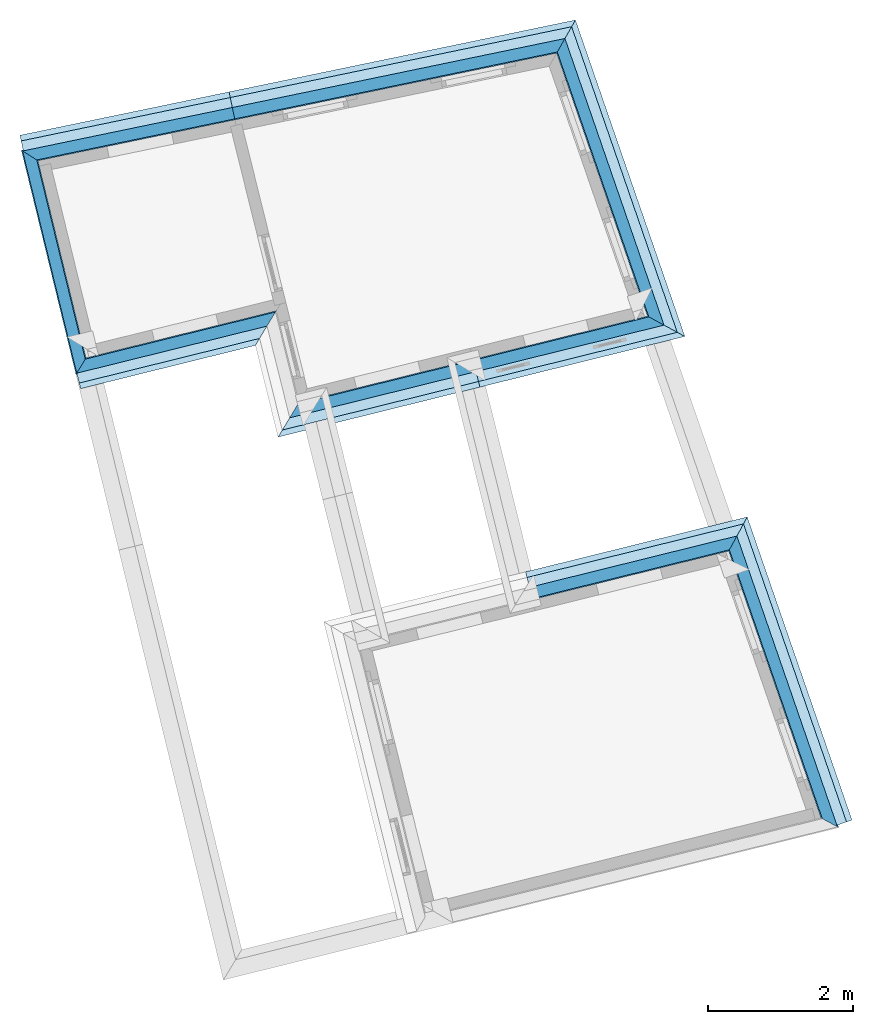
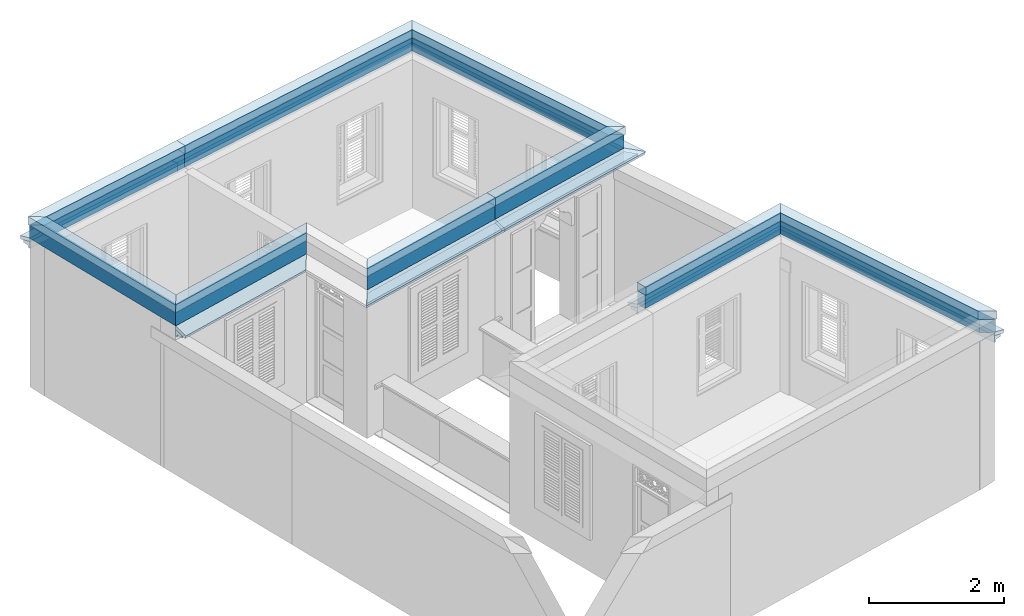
# One storey, part 14 of 15: 34 roofs.
"""IFC4 building model written with IfcOpenShell, lengths in metres."""

import ifcopenshell
import ifcopenshell.guid

model = None  # the IFC model being written
_history = None  # IfcOwnerHistory: only IFC2X3 demands one
_inside = {}  # id of a spatial element -> (the spatial element, [elements in it])
_under = {}  # id of a project, library or spatial element -> (it, [spatial elements below it])
_declared = {}  # id of a project -> (the project, [libraries it declares])
_typed = {}  # id of a type object -> (the type object, [elements of that type])
_made_of = {}  # id of a material, layer set ... -> (it, [elements and type objects made of it])


def new_model(schema):
    """Start an empty IFC model of exactly this schema.

    Asked for "IFC4X3", IfcOpenShell would pick the latest addendum, in which some entities
    have other attributes; the version numbers below select the first issue.
    IFC2X3 requires an IfcOwnerHistory on every rooted entity: one is made here for all.
    """
    global model, _history
    if schema == "IFC4X3":
        model = ifcopenshell.file(schema_version=(4, 3, 0, 0))
    else:
        model = ifcopenshell.file(schema=schema)
    _inside.clear()
    _under.clear()
    _declared.clear()
    _typed.clear()
    _made_of.clear()
    _history = None
    if model.schema == "IFC2X3":
        org = make("IfcOrganization", Name="unknown")
        user = make(
            "IfcPersonAndOrganization",
            ThePerson=make("IfcPerson", FamilyName="unknown"),
            TheOrganization=org,
        )
        app = make(
            "IfcApplication",
            ApplicationDeveloper=org,
            Version="unknown",
            ApplicationFullName="unknown",
            ApplicationIdentifier="unknown",
        )
        _history = make(
            "IfcOwnerHistory",
            OwningUser=user,
            OwningApplication=app,
            ChangeAction="ADDED",
            CreationDate=0,
        )
    return model


def make(cls, **values):
    """One entity of the class cls with the attributes given. An attribute that is None is left unset."""
    return model.create_entity(
        cls, **{name: value for name, value in values.items() if value is not None}
    )


def rooted(cls, **values):
    """An entity with a GlobalId (a new one), such as an element, a storey or a relation."""
    return make(cls, GlobalId=ifcopenshell.guid.new(), OwnerHistory=_history, **values)


def si_unit(unit_type, name, prefix=None):
    """IfcSIUnit, for example si_unit("LENGTHUNIT", "METRE", prefix="MILLI")."""
    return make("IfcSIUnit", UnitType=unit_type, Prefix=prefix, Name=name)


def assignment(units):
    """IfcUnitAssignment: the units of a project."""
    return None if units is None else make("IfcUnitAssignment", Units=units)


def point(xyz):
    """IfcCartesianPoint."""
    return None if xyz is None else make("IfcCartesianPoint", Coordinates=xyz)


def direction(xyz):
    """IfcDirection."""
    return None if xyz is None else make("IfcDirection", DirectionRatios=xyz)


def frame(location, z_axis=None, x_axis=None):
    """IfcAxis2Placement3D, a coordinate frame: its origin and axes. An axis left out is left unset."""
    return make(
        "IfcAxis2Placement3D",
        Location=point(location),
        Axis=direction(z_axis),
        RefDirection=direction(x_axis),
    )


def origin_with_axes():
    """The frame at (0, 0, 0) with the z axis (0, 0, 1) and the x axis (1, 0, 0) written out."""
    return frame((0.0, 0.0, 0.0), z_axis=(0.0, 0.0, 1.0), x_axis=(1.0, 0.0, 0.0))


def place(relative_to, where):
    """IfcLocalPlacement: puts the frame where relative to a parent placement (None: the world)."""
    return make(
        "IfcLocalPlacement", PlacementRelTo=relative_to, RelativePlacement=where
    )


def context(
    kind, dimensions, precision=None, world=None, true_north=None, identifier=None
):
    """IfcGeometricRepresentationContext, for example the 3D "Model" context."""
    return make(
        "IfcGeometricRepresentationContext",
        ContextIdentifier=identifier,
        ContextType=kind,
        CoordinateSpaceDimension=dimensions,
        Precision=precision,
        WorldCoordinateSystem=world,
        TrueNorth=true_north,
    )


def subcontext(parent, identifier, kind, view, scale=None):
    """IfcGeometricRepresentationSubContext, for example "Body" below "Model"."""
    return make(
        "IfcGeometricRepresentationSubContext",
        ContextIdentifier=identifier,
        ContextType=kind,
        ParentContext=parent,
        TargetScale=scale,
        TargetView=view,
    )


def project(units=None, contexts=None):
    """IfcProject with its units and contexts."""
    return rooted(
        "IfcProject",
        Name="project",
        RepresentationContexts=contexts,
        UnitsInContext=assignment(units),
    )


def spatial(cls, under=None, at=None, **own):
    """A site, building, storey or space (cls), placed at a placement, below another one or the project."""
    s = rooted(cls, ObjectPlacement=at, **own)
    if under is not None:
        _under.setdefault(under.id(), (under, []))[1].append(s)
    return s


def polyline(points):
    """IfcPolyline through the points."""
    return make("IfcPolyline", Points=[point(p) for p in points])


def outline(outer, holes=None, kind="AREA"):
    """IfcArbitraryClosedProfileDef: a profile drawn as a closed curve; with holes, ...WithVoids."""
    if holes is None:
        return make("IfcArbitraryClosedProfileDef", ProfileType=kind, OuterCurve=outer)
    return make(
        "IfcArbitraryProfileDefWithVoids",
        ProfileType=kind,
        OuterCurve=outer,
        InnerCurves=holes,
    )


def extrude(swept, where, along, depth):
    """IfcExtrudedAreaSolid: the profile swept, set in the frame where, extruded along a direction by depth."""
    return make(
        "IfcExtrudedAreaSolid",
        SweptArea=swept,
        Position=where,
        ExtrudedDirection=direction(along),
        Depth=depth,
    )


def clip(a, b, op="DIFFERENCE"):
    """IfcBooleanClippingResult: the solid a cut by the half space b."""
    return make(
        "IfcBooleanClippingResult", Operator=op, FirstOperand=a, SecondOperand=b
    )


def halfspace(plane, agree):
    """IfcHalfSpaceSolid: all space on one side of the plane z = 0 of the frame plane."""
    return make(
        "IfcHalfSpaceSolid",
        BaseSurface=make("IfcPlane", Position=plane),
        AgreementFlag=agree,
    )


def shape(context_of_items, identifier, shape_type, items):
    """IfcShapeRepresentation: the items that make up one representation, for example the "Body"."""
    return make(
        "IfcShapeRepresentation",
        ContextOfItems=context_of_items,
        RepresentationIdentifier=identifier,
        RepresentationType=shape_type,
        Items=items,
    )


def material_profile(
    of_material, cross_section, Name=None, Category=None, Priority=None
):
    """IfcMaterialProfile: a cross section and its material."""
    return make(
        "IfcMaterialProfile",
        Name=Name,
        Material=of_material,
        Profile=cross_section,
        Priority=Priority,
        Category=Category,
    )


def profile_set(profiles, Name=None, composite=None):
    """IfcMaterialProfileSet."""
    return make(
        "IfcMaterialProfileSet",
        Name=Name,
        MaterialProfiles=profiles,
        CompositeProfile=composite,
    )


def profile_usage(for_profile_set, cardinal=None, extent=None):
    """IfcMaterialProfileSetUsage: how a profile set lies along its element."""
    return make(
        "IfcMaterialProfileSetUsage",
        ForProfileSet=for_profile_set,
        CardinalPoint=cardinal,
        ReferenceExtent=extent,
    )


def made_of(thing, what):
    """Note that an element or type object is made of a material, layer set ...; save() writes the relation."""
    if what is not None:
        _made_of.setdefault(what.id(), (what, []))[1].append(thing)
    return thing


def type_object(cls, material=None, **own):
    """A type object (cls), such as IfcWallType, which elements share."""
    return made_of(rooted(cls, **own), material)


def element(
    cls,
    number,
    at=None,
    inside=None,
    cuts=None,
    type_object=None,
    material=None,
    context=None,
    identifier="Body",
    shape_type=None,
    held_by="IfcProductDefinitionShape",
    body=None,
    shapes=None,
    **own,
):
    """One element of the class cls, such as IfcWall. Its Tag is "e" and its number.

    at: its placement. inside: the storey or other place that contains it. cuts: it is an
    opening in that element (IfcRelVoidsElement). A single representation is given by context,
    identifier, shape_type and body (its items); several are given by shapes. held_by: the class
    of the entity that holds the representations. save() writes the other relations.
    """
    e = rooted(cls, Tag="e%d" % number, ObjectPlacement=at, **own)
    if body is not None:
        shapes = [shape(context, identifier, shape_type, body)]
    if shapes is not None:
        e.Representation = make(held_by, Representations=shapes)
    if inside is not None:
        _inside.setdefault(inside.id(), (inside, []))[1].append(e)
    if cuts is not None:
        rooted(
            "IfcRelVoidsElement", RelatingBuildingElement=cuts, RelatedOpeningElement=e
        )
    if type_object is not None:
        _typed.setdefault(type_object.id(), (type_object, []))[1].append(e)
    return made_of(e, material)


def aggregate(whole, parts):
    """IfcRelAggregates: a whole, such as a stair, and the parts it consists of."""
    return rooted("IfcRelAggregates", RelatingObject=whole, RelatedObjects=parts)


def save(model, path):
    """Write the relations noted so far, then the file.

    IfcRelAggregates (storeys below a building ...), IfcRelContainedInSpatialStructure (elements
    in a storey), IfcRelDefinesByType, IfcRelAssociatesMaterial and IfcRelDeclares: one each for
    every whole, place, type object, material and project.
    """
    for whole, parts in _under.values():
        aggregate(whole, parts)
    for where, things in _inside.values():
        rooted(
            "IfcRelContainedInSpatialStructure",
            RelatedElements=things,
            RelatingStructure=where,
        )
    for kind, things in _typed.values():
        rooted("IfcRelDefinesByType", RelatedObjects=things, RelatingType=kind)
    for what, things in _made_of.values():
        rooted("IfcRelAssociatesMaterial", RelatedObjects=things, RelatingMaterial=what)
    for by, libraries in _declared.values():
        rooted("IfcRelDeclares", RelatingContext=by, RelatedDefinitions=libraries)
    model.write(path)


model = new_model("IFC4")

# Units and contexts
model_context = context("Model", 3, world=origin_with_axes())
body_context = subcontext(model_context, "Body", "Model", "MODEL_VIEW")
ifc_project = project(units=[si_unit("PLANEANGLEUNIT", "RADIAN"), si_unit("MASSUNIT", "GRAM", prefix="KILO"), si_unit("FORCEUNIT", "NEWTON", prefix="KILO"), si_unit("LENGTHUNIT", "METRE"), si_unit("AREAUNIT", "SQUARE_METRE"), si_unit("VOLUMEUNIT", "CUBIC_METRE")], contexts=[model_context, model_context])

# Site, building, storey
site_placement = place(None, origin_with_axes())
site = spatial("IfcSite", under=ifc_project, at=site_placement, Name="Site plot-5", CompositionType="ELEMENT")
building_placement = place(None, origin_with_axes())
building = spatial("IfcBuilding", under=site, at=building_placement, Name="Building plot-5", CompositionType="ELEMENT")
storey_placement = place(None, frame((0.0, 0.0, 3.45), z_axis=(0.0, 0.0, 1.0), x_axis=(1.0, 0.0, 0.0)))
storey = spatial("IfcBuildingStorey", under=building, at=storey_placement, Name="plot-5 1", CompositionType="ELEMENT", Elevation=3.45)

# Roofs
ifc_material_profile_1 = material_profile(None, outline(polyline([(0.25, 0.0), (0.25, 0.245), (0.09, 0.245), (0.09, 0.0), (0.25, 0.0)])))
ifc_profile_set_1 = profile_set([ifc_material_profile_1])
ifc_profile_usage_1 = profile_usage(ifc_profile_set_1)
roof_type_1 = type_object("IfcRoofType", Name="roofline_0", PredefinedType="FREEFORM", material=ifc_profile_set_1)
roof_1_placement = place(storey_placement, frame((20.3453675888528, 24.3198891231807, 2.7), z_axis=(0.970711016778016, 0.240250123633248, 0.0), x_axis=(-0.240250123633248, 0.970711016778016, 0.0)))
element("IfcRoof", 1, at=roof_1_placement, inside=storey, type_object=roof_type_1, material=ifc_profile_usage_1, Name="roofline_0", context=body_context, shape_type="Clipping", body=[
    clip(clip(extrude(outline(polyline([(0.25, 0.0), (0.25, 0.245), (0.09, 0.245), (0.09, 0.0), (0.25, 0.0)])), origin_with_axes(), (0.0, 0.0, 1.0), 4.71405591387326), halfspace(frame((0.0, 0.0, 3.71405591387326), z_axis=(0.674509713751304, 0.0, -0.738265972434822), x_axis=(0.0, 1.0, 0.0)), True)), halfspace(frame((0.0, 0.0, 1.0), z_axis=(-1.39349996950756e-15, 0.0, -1.0), x_axis=(0.0, 1.0, 0.0)), False)),
])
ifc_profile_usage_2 = profile_usage(ifc_profile_set_1)
roof_2_placement = place(storey_placement, frame((23.6239339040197, 26.1573166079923, 2.7), z_axis=(0.326708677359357, -0.945125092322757, 0.0), x_axis=(0.945125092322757, 0.326708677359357, 0.0)))
element("IfcRoof", 2, at=roof_2_placement, inside=storey, type_object=roof_type_1, material=ifc_profile_usage_2, Name="roofline_0", context=body_context, shape_type="Clipping", body=[
    clip(clip(extrude(outline(polyline([(0.25, 0.0), (0.25, 0.245), (0.09, 0.245), (0.09, 0.0), (0.25, 0.0)])), origin_with_axes(), (0.0, 0.0, 1.0), 5.73477604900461), halfspace(frame((0.0, 0.0, 4.73477604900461), z_axis=(0.738265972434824, 0.0, -0.674509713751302), x_axis=(0.0, 1.0, 0.0)), True)), halfspace(frame((0.0, 0.0, 1.0), z_axis=(-0.674509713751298, 0.0, -0.738265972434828), x_axis=(0.0, 1.0, 0.0)), False)),
])
ifc_material_profile_2 = material_profile(None, outline(polyline([(0.265, 0.245), (0.265, 0.395), (0.075, 0.395), (0.075, 0.245), (0.265, 0.245)])))
ifc_profile_set_2 = profile_set([ifc_material_profile_2])
ifc_profile_usage_3 = profile_usage(ifc_profile_set_2)
roof_type_2 = type_object("IfcRoofType", Name="roofline_1", PredefinedType="FREEFORM", material=ifc_profile_set_2)
roof_3_placement = place(storey_placement, frame((20.3453675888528, 24.3198891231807, 2.7), z_axis=(0.970711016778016, 0.240250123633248, 0.0), x_axis=(-0.240250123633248, 0.970711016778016, 0.0)))
element("IfcRoof", 3, at=roof_3_placement, inside=storey, type_object=roof_type_2, material=ifc_profile_usage_3, Name="roofline_1", context=body_context, shape_type="Clipping", body=[
    clip(clip(extrude(outline(polyline([(0.265, 0.245), (0.265, 0.395), (0.075, 0.395), (0.075, 0.245), (0.265, 0.245)])), origin_with_axes(), (0.0, 0.0, 1.0), 4.71405591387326), halfspace(frame((0.0, 0.0, 3.71405591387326), z_axis=(0.674509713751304, 0.0, -0.738265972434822), x_axis=(0.0, 1.0, 0.0)), True)), halfspace(frame((0.0, 0.0, 1.0), z_axis=(-1.39349996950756e-15, 0.0, -1.0), x_axis=(0.0, 1.0, 0.0)), False)),
])
ifc_profile_usage_4 = profile_usage(ifc_profile_set_2)
roof_4_placement = place(storey_placement, frame((23.6239339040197, 26.1573166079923, 2.7), z_axis=(0.326708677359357, -0.945125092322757, 0.0), x_axis=(0.945125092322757, 0.326708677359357, 0.0)))
element("IfcRoof", 4, at=roof_4_placement, inside=storey, type_object=roof_type_2, material=ifc_profile_usage_4, Name="roofline_1", context=body_context, shape_type="Clipping", body=[
    clip(clip(extrude(outline(polyline([(0.265, 0.245), (0.265, 0.395), (0.075, 0.395), (0.075, 0.245), (0.265, 0.245)])), origin_with_axes(), (0.0, 0.0, 1.0), 5.73477604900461), halfspace(frame((0.0, 0.0, 4.73477604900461), z_axis=(0.738265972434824, 0.0, -0.674509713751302), x_axis=(0.0, 1.0, 0.0)), True)), halfspace(frame((0.0, 0.0, 1.0), z_axis=(-0.674509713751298, 0.0, -0.738265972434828), x_axis=(0.0, 1.0, 0.0)), False)),
])
ifc_material_profile_3 = material_profile(None, outline(polyline([(0.25, 0.0), (0.25, 0.245), (0.09, 0.245), (0.09, 0.0), (0.25, 0.0)])))
ifc_profile_set_3 = profile_set([ifc_material_profile_3])
ifc_profile_usage_5 = profile_usage(ifc_profile_set_3)
roof_type_3 = type_object("IfcRoofType", Name="roofline_0", PredefinedType="FREEFORM", material=ifc_profile_set_3)
roof_5_placement = place(storey_placement, frame((21.2538979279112, 33.0135179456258, 2.7), z_axis=(0.326708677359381, -0.945125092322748, 0.0), x_axis=(0.945125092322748, 0.326708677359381, 0.0)))
element("IfcRoof", 5, at=roof_5_placement, inside=storey, type_object=roof_type_3, material=ifc_profile_usage_5, Name="roofline_0", context=body_context, shape_type="Clipping", body=[
    clip(clip(extrude(outline(polyline([(0.25, 0.0), (0.25, 0.245), (0.09, 0.245), (0.09, 0.0), (0.25, 0.0)])), origin_with_axes(), (0.0, 0.0, 1.0), 5.68091742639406), halfspace(frame((0.0, 0.0, 4.68091742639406), z_axis=(0.738265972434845, 0.0, -0.674509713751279), x_axis=(0.0, 1.0, 0.0)), True)), halfspace(frame((0.0, 0.0, 1.0), z_axis=(-0.66033156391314, 0.0, -0.750974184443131), x_axis=(0.0, 1.0, 0.0)), False)),
])
ifc_profile_usage_6 = profile_usage(ifc_profile_set_3)
roof_6_placement = place(storey_placement, frame((16.2382831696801, 30.9601588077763, 2.7), z_axis=(0.979153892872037, 0.203119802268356, 0.0), x_axis=(-0.203119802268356, 0.979153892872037, 0.0)))
element("IfcRoof", 6, at=roof_6_placement, inside=storey, type_object=roof_type_3, material=ifc_profile_usage_6, Name="roofline_0", context=body_context, shape_type="Clipping", body=[
    clip(clip(extrude(outline(polyline([(0.25, 0.0), (0.25, 0.245), (0.09, 0.245), (0.09, 0.0), (0.25, 0.0)])), origin_with_axes(), (0.0, 0.0, 1.0), 6.45606106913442), halfspace(frame((0.0, 0.0, 5.45606106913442), z_axis=(0.660331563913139, 0.0, -0.750974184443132), x_axis=(0.0, 1.0, 0.0)), True)), halfspace(frame((0.0, 0.0, 1.0), z_axis=(-1.83758917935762e-15, 0.0, -1.0), x_axis=(0.0, 1.0, 0.0)), False)),
])
ifc_profile_usage_7 = profile_usage(ifc_profile_set_3)
roof_7_placement = place(storey_placement, frame((13.6049365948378, 30.4138863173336, 2.7), z_axis=(0.979153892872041, 0.203119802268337, 0.0), x_axis=(-0.203119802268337, 0.979153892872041, 0.0)))
element("IfcRoof", 7, at=roof_7_placement, inside=storey, type_object=roof_type_3, material=ifc_profile_usage_7, Name="roofline_0", context=body_context, shape_type="Clipping", body=[
    clip(clip(extrude(outline(polyline([(0.25, 0.0), (0.25, 0.245), (0.09, 0.245), (0.09, 0.0), (0.25, 0.0)])), origin_with_axes(), (0.0, 0.0, 1.0), 4.68941031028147), halfspace(frame((0.0, 0.0, 3.68941031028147), z_axis=(-2.04893359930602e-14, 0.0, -1.0), x_axis=(0.0, 1.0, 0.0)), True)), halfspace(frame((0.0, 0.0, 1.0), z_axis=(-0.719139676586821, 0.0, -0.694865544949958), x_axis=(0.0, 1.0, 0.0)), False)),
])
ifc_profile_usage_8 = profile_usage(ifc_profile_set_3)
roof_8_placement = place(storey_placement, frame((15.4449624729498, 27.0819338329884, 2.7), z_axis=(-0.236608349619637, 0.971605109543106, 0.0), x_axis=(-0.971605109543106, -0.236608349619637, 0.0)))
element("IfcRoof", 8, at=roof_8_placement, inside=storey, type_object=roof_type_3, material=ifc_profile_usage_8, Name="roofline_0", context=body_context, shape_type="Clipping", body=[
    clip(clip(extrude(outline(polyline([(0.25, 0.0), (0.25, 0.245), (0.09, 0.245), (0.09, 0.0), (0.25, 0.0)])), origin_with_axes(), (0.0, 0.0, 1.0), 4.63838379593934), halfspace(frame((0.0, 0.0, 3.63838379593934), z_axis=(0.719139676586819, 0.0, -0.69486554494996), x_axis=(0.0, 1.0, 0.0)), True)), halfspace(frame((0.0, 0.0, 1.0), z_axis=(-0.708431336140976, 0.0, -0.705779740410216), x_axis=(0.0, 1.0, 0.0)), False)),
])
ifc_profile_usage_9 = profile_usage(ifc_profile_set_3)
roof_9_placement = place(storey_placement, frame((18.7974166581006, 28.9418287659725, 2.7), z_axis=(-0.970711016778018, -0.240250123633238, 0.0), x_axis=(0.240250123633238, -0.970711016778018, 0.0)))
element("IfcRoof", 9, at=roof_9_placement, inside=storey, type_object=roof_type_3, material=ifc_profile_usage_9, Name="roofline_0", context=body_context, shape_type="Clipping", body=[
    clip(clip(extrude(outline(polyline([(0.25, 0.0), (0.25, 0.245), (0.09, 0.245), (0.09, 0.0), (0.25, 0.0)])), origin_with_axes(), (0.0, 0.0, 1.0), 4.69735428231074), halfspace(frame((0.0, 0.0, 3.69735428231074), z_axis=(0.708431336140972, 0.0, -0.70577974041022), x_axis=(0.0, 1.0, 0.0)), True)), halfspace(frame((0.0, 0.0, 1.0), z_axis=(0.707106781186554, 0.0, -0.707106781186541), x_axis=(0.0, 1.0, 0.0)), False)),
])
ifc_profile_usage_10 = profile_usage(ifc_profile_set_3)
roof_10_placement = place(storey_placement, frame((21.4317786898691, 28.2549912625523, 2.7), z_axis=(-0.970711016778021, -0.240250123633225, 0.0), x_axis=(0.240250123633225, -0.970711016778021, 0.0)))
element("IfcRoof", 10, at=roof_10_placement, inside=storey, type_object=roof_type_3, material=ifc_profile_usage_10, Name="roofline_0", context=body_context, shape_type="Clipping", body=[
    clip(clip(extrude(outline(polyline([(0.25, 0.0), (0.25, 0.245), (0.09, 0.245), (0.09, 0.0), (0.25, 0.0)])), origin_with_axes(), (0.0, 0.0, 1.0), 4.39219145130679), halfspace(frame((0.0, 0.0, 3.39219145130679), z_axis=(0.707106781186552, 0.0, -0.707106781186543), x_axis=(0.0, 1.0, 0.0)), True)), halfspace(frame((0.0, 0.0, 1.0), z_axis=(1.04899068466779e-15, 0.0, -1.0), x_axis=(0.0, 1.0, 0.0)), False)),
])
ifc_profile_usage_11 = profile_usage(ifc_profile_set_3)
roof_11_placement = place(storey_placement, frame((23.7539052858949, 28.8297155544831, 2.7), z_axis=(-0.970711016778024, -0.240250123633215, 0.0), x_axis=(0.240250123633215, -0.970711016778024, 0.0)))
element("IfcRoof", 11, at=roof_11_placement, inside=storey, type_object=roof_type_3, material=ifc_profile_usage_11, Name="roofline_0", context=body_context, shape_type="Clipping", body=[
    clip(clip(extrude(outline(polyline([(0.25, 0.0), (0.25, 0.245), (0.09, 0.245), (0.09, 0.0), (0.25, 0.0)])), origin_with_axes(), (0.0, 0.0, 1.0), 4.39219145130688), halfspace(frame((0.0, 0.0, 3.39219145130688), z_axis=(-8.94301653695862e-15, 0.0, -1.0), x_axis=(0.0, 1.0, 0.0)), True)), halfspace(frame((0.0, 0.0, 1.0), z_axis=(-0.738265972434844, 0.0, -0.67450971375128), x_axis=(0.0, 1.0, 0.0)), False)),
])
ifc_material_profile_4 = material_profile(None, outline(polyline([(0.265, 0.245), (0.265, 0.395), (0.075, 0.395), (0.075, 0.245), (0.265, 0.245)])))
ifc_profile_set_4 = profile_set([ifc_material_profile_4])
ifc_profile_usage_12 = profile_usage(ifc_profile_set_4)
roof_type_4 = type_object("IfcRoofType", Name="roofline_1", PredefinedType="FREEFORM", material=ifc_profile_set_4)
roof_12_placement = place(storey_placement, frame((21.2538979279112, 33.0135179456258, 2.7), z_axis=(0.326708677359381, -0.945125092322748, 0.0), x_axis=(0.945125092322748, 0.326708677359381, 0.0)))
element("IfcRoof", 12, at=roof_12_placement, inside=storey, type_object=roof_type_4, material=ifc_profile_usage_12, Name="roofline_1", context=body_context, shape_type="Clipping", body=[
    clip(clip(extrude(outline(polyline([(0.265, 0.245), (0.265, 0.395), (0.075, 0.395), (0.075, 0.245), (0.265, 0.245)])), origin_with_axes(), (0.0, 0.0, 1.0), 5.68091742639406), halfspace(frame((0.0, 0.0, 4.68091742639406), z_axis=(0.738265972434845, 0.0, -0.674509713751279), x_axis=(0.0, 1.0, 0.0)), True)), halfspace(frame((0.0, 0.0, 1.0), z_axis=(-0.66033156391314, 0.0, -0.750974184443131), x_axis=(0.0, 1.0, 0.0)), False)),
])
ifc_profile_usage_13 = profile_usage(ifc_profile_set_4)
roof_13_placement = place(storey_placement, frame((16.2382831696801, 30.9601588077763, 2.7), z_axis=(0.979153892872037, 0.203119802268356, 0.0), x_axis=(-0.203119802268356, 0.979153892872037, 0.0)))
element("IfcRoof", 13, at=roof_13_placement, inside=storey, type_object=roof_type_4, material=ifc_profile_usage_13, Name="roofline_1", context=body_context, shape_type="Clipping", body=[
    clip(clip(extrude(outline(polyline([(0.265, 0.245), (0.265, 0.395), (0.075, 0.395), (0.075, 0.245), (0.265, 0.245)])), origin_with_axes(), (0.0, 0.0, 1.0), 6.45606106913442), halfspace(frame((0.0, 0.0, 5.45606106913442), z_axis=(0.660331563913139, 0.0, -0.750974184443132), x_axis=(0.0, 1.0, 0.0)), True)), halfspace(frame((0.0, 0.0, 1.0), z_axis=(-1.83758917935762e-15, 0.0, -1.0), x_axis=(0.0, 1.0, 0.0)), False)),
])
ifc_profile_usage_14 = profile_usage(ifc_profile_set_4)
roof_14_placement = place(storey_placement, frame((13.6049365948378, 30.4138863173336, 2.7), z_axis=(0.979153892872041, 0.203119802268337, 0.0), x_axis=(-0.203119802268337, 0.979153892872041, 0.0)))
element("IfcRoof", 14, at=roof_14_placement, inside=storey, type_object=roof_type_4, material=ifc_profile_usage_14, Name="roofline_1", context=body_context, shape_type="Clipping", body=[
    clip(clip(extrude(outline(polyline([(0.265, 0.245), (0.265, 0.395), (0.075, 0.395), (0.075, 0.245), (0.265, 0.245)])), origin_with_axes(), (0.0, 0.0, 1.0), 4.68941031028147), halfspace(frame((0.0, 0.0, 3.68941031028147), z_axis=(-2.04893359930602e-14, 0.0, -1.0), x_axis=(0.0, 1.0, 0.0)), True)), halfspace(frame((0.0, 0.0, 1.0), z_axis=(-0.719139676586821, 0.0, -0.694865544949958), x_axis=(0.0, 1.0, 0.0)), False)),
])
ifc_profile_usage_15 = profile_usage(ifc_profile_set_4)
roof_15_placement = place(storey_placement, frame((15.4449624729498, 27.0819338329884, 2.7), z_axis=(-0.236608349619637, 0.971605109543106, 0.0), x_axis=(-0.971605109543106, -0.236608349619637, 0.0)))
element("IfcRoof", 15, at=roof_15_placement, inside=storey, type_object=roof_type_4, material=ifc_profile_usage_15, Name="roofline_1", context=body_context, shape_type="Clipping", body=[
    clip(clip(extrude(outline(polyline([(0.265, 0.245), (0.265, 0.395), (0.075, 0.395), (0.075, 0.245), (0.265, 0.245)])), origin_with_axes(), (0.0, 0.0, 1.0), 4.63838379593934), halfspace(frame((0.0, 0.0, 3.63838379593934), z_axis=(0.719139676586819, 0.0, -0.69486554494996), x_axis=(0.0, 1.0, 0.0)), True)), halfspace(frame((0.0, 0.0, 1.0), z_axis=(-0.708431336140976, 0.0, -0.705779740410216), x_axis=(0.0, 1.0, 0.0)), False)),
])
ifc_profile_usage_16 = profile_usage(ifc_profile_set_4)
roof_16_placement = place(storey_placement, frame((18.7974166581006, 28.9418287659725, 2.7), z_axis=(-0.970711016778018, -0.240250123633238, 0.0), x_axis=(0.240250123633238, -0.970711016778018, 0.0)))
element("IfcRoof", 16, at=roof_16_placement, inside=storey, type_object=roof_type_4, material=ifc_profile_usage_16, Name="roofline_1", context=body_context, shape_type="Clipping", body=[
    clip(clip(extrude(outline(polyline([(0.265, 0.245), (0.265, 0.395), (0.075, 0.395), (0.075, 0.245), (0.265, 0.245)])), origin_with_axes(), (0.0, 0.0, 1.0), 4.69735428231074), halfspace(frame((0.0, 0.0, 3.69735428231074), z_axis=(0.708431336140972, 0.0, -0.70577974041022), x_axis=(0.0, 1.0, 0.0)), True)), halfspace(frame((0.0, 0.0, 1.0), z_axis=(0.707106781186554, 0.0, -0.707106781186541), x_axis=(0.0, 1.0, 0.0)), False)),
])
ifc_profile_usage_17 = profile_usage(ifc_profile_set_4)
roof_17_placement = place(storey_placement, frame((21.4317786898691, 28.2549912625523, 2.7), z_axis=(-0.970711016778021, -0.240250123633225, 0.0), x_axis=(0.240250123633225, -0.970711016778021, 0.0)))
element("IfcRoof", 17, at=roof_17_placement, inside=storey, type_object=roof_type_4, material=ifc_profile_usage_17, Name="roofline_1", context=body_context, shape_type="Clipping", body=[
    clip(clip(extrude(outline(polyline([(0.265, 0.245), (0.265, 0.395), (0.075, 0.395), (0.075, 0.245), (0.265, 0.245)])), origin_with_axes(), (0.0, 0.0, 1.0), 4.39219145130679), halfspace(frame((0.0, 0.0, 3.39219145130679), z_axis=(0.707106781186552, 0.0, -0.707106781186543), x_axis=(0.0, 1.0, 0.0)), True)), halfspace(frame((0.0, 0.0, 1.0), z_axis=(1.04899068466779e-15, 0.0, -1.0), x_axis=(0.0, 1.0, 0.0)), False)),
])
ifc_profile_usage_18 = profile_usage(ifc_profile_set_4)
roof_18_placement = place(storey_placement, frame((23.7539052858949, 28.8297155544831, 2.7), z_axis=(-0.970711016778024, -0.240250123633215, 0.0), x_axis=(0.240250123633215, -0.970711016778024, 0.0)))
element("IfcRoof", 18, at=roof_18_placement, inside=storey, type_object=roof_type_4, material=ifc_profile_usage_18, Name="roofline_1", context=body_context, shape_type="Clipping", body=[
    clip(clip(extrude(outline(polyline([(0.265, 0.245), (0.265, 0.395), (0.075, 0.395), (0.075, 0.245), (0.265, 0.245)])), origin_with_axes(), (0.0, 0.0, 1.0), 4.39219145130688), halfspace(frame((0.0, 0.0, 3.39219145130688), z_axis=(-8.94301653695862e-15, 0.0, -1.0), x_axis=(0.0, 1.0, 0.0)), True)), halfspace(frame((0.0, 0.0, 1.0), z_axis=(-0.738265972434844, 0.0, -0.67450971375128), x_axis=(0.0, 1.0, 0.0)), False)),
])
ifc_material_profile_5 = material_profile(None, outline(polyline([(0.25, -0.19), (0.275, -0.19), (0.275, -0.15), (0.39, -0.15), (0.39, -0.107509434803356), (0.25, -0.0629639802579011), (0.25, -0.19)])))
ifc_profile_set_5 = profile_set([ifc_material_profile_5])
ifc_profile_usage_19 = profile_usage(ifc_profile_set_5)
roof_type_5 = type_object("IfcRoofType", Name="eaves_0", PredefinedType="FREEFORM", material=ifc_profile_set_5)
roof_19_placement = place(storey_placement, frame((18.7974166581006, 28.9418287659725, 2.7), z_axis=(-0.970711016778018, -0.240250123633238, 0.0), x_axis=(0.240250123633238, -0.970711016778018, 0.0)))
element("IfcRoof", 19, at=roof_19_placement, inside=storey, type_object=roof_type_5, material=ifc_profile_usage_19, Name="eaves_0", context=body_context, shape_type="Clipping", body=[
    clip(clip(extrude(outline(polyline([(0.25, -0.19), (0.275, -0.19), (0.275, -0.15), (0.39, -0.15), (0.39, -0.107509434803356), (0.25, -0.0629639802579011), (0.25, -0.19)])), origin_with_axes(), (0.0, 0.0, 1.0), 4.94735428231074), halfspace(frame((0.0, 0.0, 3.94735428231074), z_axis=(-7.27366154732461e-16, 0.0, -1.0), x_axis=(0.0, 1.0, 0.0)), True)), halfspace(frame((0.0, 0.0, 1.0), z_axis=(0.707106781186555, 0.0, -0.70710678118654), x_axis=(0.0, 1.0, 0.0)), False)),
])
ifc_profile_usage_20 = profile_usage(ifc_profile_set_5)
roof_20_placement = place(storey_placement, frame((21.4317786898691, 28.2549912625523, 2.7), z_axis=(-0.970711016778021, -0.240250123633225, 0.0), x_axis=(0.240250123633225, -0.970711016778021, 0.0)))
element("IfcRoof", 20, at=roof_20_placement, inside=storey, type_object=roof_type_5, material=ifc_profile_usage_20, Name="eaves_0", context=body_context, shape_type="Clipping", body=[
    clip(clip(extrude(outline(polyline([(0.25, -0.19), (0.275, -0.19), (0.275, -0.15), (0.39, -0.15), (0.39, -0.107509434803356), (0.25, -0.0629639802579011), (0.25, -0.19)])), origin_with_axes(), (0.0, 0.0, 1.0), 4.39219145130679), halfspace(frame((0.0, 0.0, 3.39219145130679), z_axis=(0.707106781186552, 0.0, -0.707106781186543), x_axis=(0.0, 1.0, 0.0)), True)), halfspace(frame((0.0, 0.0, 1.0), z_axis=(1.04899068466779e-15, 0.0, -1.0), x_axis=(0.0, 1.0, 0.0)), False)),
])
ifc_profile_usage_21 = profile_usage(ifc_profile_set_5)
roof_21_placement = place(storey_placement, frame((23.7539052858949, 28.8297155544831, 2.7), z_axis=(-0.970711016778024, -0.240250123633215, 0.0), x_axis=(0.240250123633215, -0.970711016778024, 0.0)))
element("IfcRoof", 21, at=roof_21_placement, inside=storey, type_object=roof_type_5, material=ifc_profile_usage_21, Name="eaves_0", context=body_context, shape_type="Clipping", body=[
    clip(clip(extrude(outline(polyline([(0.25, -0.19), (0.275, -0.19), (0.275, -0.15), (0.39, -0.15), (0.39, -0.107509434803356), (0.25, -0.0629639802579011), (0.25, -0.19)])), origin_with_axes(), (0.0, 0.0, 1.0), 4.39219145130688), halfspace(frame((0.0, 0.0, 3.39219145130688), z_axis=(-8.94301653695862e-15, 0.0, -1.0), x_axis=(0.0, 1.0, 0.0)), True)), halfspace(frame((0.0, 0.0, 1.0), z_axis=(-0.738265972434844, 0.0, -0.67450971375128), x_axis=(0.0, 1.0, 0.0)), False)),
])
ifc_profile_usage_22 = profile_usage(ifc_profile_set_5)
roof_22_placement = place(storey_placement, frame((21.2538979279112, 33.0135179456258, 2.7), z_axis=(0.326708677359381, -0.945125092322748, 0.0), x_axis=(0.945125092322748, 0.326708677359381, 0.0)))
element("IfcRoof", 22, at=roof_22_placement, inside=storey, type_object=roof_type_5, material=ifc_profile_usage_22, Name="eaves_0", context=body_context, shape_type="Clipping", body=[
    clip(clip(extrude(outline(polyline([(0.25, -0.19), (0.275, -0.19), (0.275, -0.15), (0.39, -0.15), (0.39, -0.107509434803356), (0.25, -0.0629639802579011), (0.25, -0.19)])), origin_with_axes(), (0.0, 0.0, 1.0), 5.68091742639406), halfspace(frame((0.0, 0.0, 4.68091742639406), z_axis=(0.738265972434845, 0.0, -0.674509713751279), x_axis=(0.0, 1.0, 0.0)), True)), halfspace(frame((0.0, 0.0, 1.0), z_axis=(-0.66033156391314, 0.0, -0.750974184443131), x_axis=(0.0, 1.0, 0.0)), False)),
])
ifc_profile_usage_23 = profile_usage(ifc_profile_set_5)
roof_23_placement = place(storey_placement, frame((16.2382831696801, 30.9601588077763, 2.7), z_axis=(0.979153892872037, 0.203119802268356, 0.0), x_axis=(-0.203119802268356, 0.979153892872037, 0.0)))
element("IfcRoof", 23, at=roof_23_placement, inside=storey, type_object=roof_type_5, material=ifc_profile_usage_23, Name="eaves_0", context=body_context, shape_type="Clipping", body=[
    clip(clip(extrude(outline(polyline([(0.25, -0.19), (0.275, -0.19), (0.275, -0.15), (0.39, -0.15), (0.39, -0.107509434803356), (0.25, -0.0629639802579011), (0.25, -0.19)])), origin_with_axes(), (0.0, 0.0, 1.0), 6.45606106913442), halfspace(frame((0.0, 0.0, 5.45606106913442), z_axis=(0.660331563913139, 0.0, -0.750974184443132), x_axis=(0.0, 1.0, 0.0)), True)), halfspace(frame((0.0, 0.0, 1.0), z_axis=(-1.83758917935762e-15, 0.0, -1.0), x_axis=(0.0, 1.0, 0.0)), False)),
])
ifc_profile_usage_24 = profile_usage(ifc_profile_set_5)
roof_24_placement = place(storey_placement, frame((13.3601481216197, 30.3631063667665, 2.7), z_axis=(0.979153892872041, 0.203119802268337, 0.0), x_axis=(-0.203119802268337, 0.979153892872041, 0.0)))
element("IfcRoof", 24, at=roof_24_placement, inside=storey, type_object=roof_type_5, material=ifc_profile_usage_24, Name="eaves_0", context=body_context, shape_type="Clipping", body=[
    clip(clip(extrude(outline(polyline([(0.25, -0.19), (0.275, -0.19), (0.275, -0.15), (0.39, -0.15), (0.39, -0.107509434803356), (0.25, -0.0629639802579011), (0.25, -0.19)])), origin_with_axes(), (0.0, 0.0, 1.0), 4.93941031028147), halfspace(frame((0.0, 0.0, 3.93941031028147), z_axis=(-2.18216036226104e-14, 0.0, -1.0), x_axis=(0.0, 1.0, 0.0)), True)), halfspace(frame((0.0, 0.0, 1.0), z_axis=(3.82856869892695e-16, 0.0, -1.0), x_axis=(0.0, 1.0, 0.0)), False)),
])
ifc_material_profile_6 = material_profile(None, outline(polyline([(0.25, -0.0629639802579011), (0.451807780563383, -0.127175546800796), (0.47, -0.07), (0.25, 0.0), (0.25, -0.0629639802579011)])))
ifc_profile_set_6 = profile_set([ifc_material_profile_6])
ifc_profile_usage_25 = profile_usage(ifc_profile_set_6)
roof_type_6 = type_object("IfcRoofType", Name="eaves_1", PredefinedType="FREEFORM", material=ifc_profile_set_6)
roof_25_placement = place(storey_placement, frame((18.7974166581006, 28.9418287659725, 2.7), z_axis=(-0.970711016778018, -0.240250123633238, 0.0), x_axis=(0.240250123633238, -0.970711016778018, 0.0)))
element("IfcRoof", 25, at=roof_25_placement, inside=storey, type_object=roof_type_6, material=ifc_profile_usage_25, Name="eaves_1", context=body_context, shape_type="Clipping", body=[
    clip(clip(extrude(outline(polyline([(0.25, -0.0629639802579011), (0.451807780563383, -0.127175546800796), (0.47, -0.07), (0.25, 0.0), (0.25, -0.0629639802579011)])), origin_with_axes(), (0.0, 0.0, 1.0), 4.94735428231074), halfspace(frame((0.0, 0.0, 3.94735428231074), z_axis=(-7.27366154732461e-16, 0.0, -1.0), x_axis=(0.0, 1.0, 0.0)), True)), halfspace(frame((0.0, 0.0, 1.0), z_axis=(0.707106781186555, 0.0, -0.70710678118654), x_axis=(0.0, 1.0, 0.0)), False)),
])
ifc_profile_usage_26 = profile_usage(ifc_profile_set_6)
roof_26_placement = place(storey_placement, frame((21.4317786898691, 28.2549912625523, 2.7), z_axis=(-0.970711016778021, -0.240250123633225, 0.0), x_axis=(0.240250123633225, -0.970711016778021, 0.0)))
element("IfcRoof", 26, at=roof_26_placement, inside=storey, type_object=roof_type_6, material=ifc_profile_usage_26, Name="eaves_1", context=body_context, shape_type="Clipping", body=[
    clip(clip(extrude(outline(polyline([(0.25, -0.0629639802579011), (0.451807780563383, -0.127175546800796), (0.47, -0.07), (0.25, 0.0), (0.25, -0.0629639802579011)])), origin_with_axes(), (0.0, 0.0, 1.0), 4.39219145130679), halfspace(frame((0.0, 0.0, 3.39219145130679), z_axis=(0.707106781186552, 0.0, -0.707106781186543), x_axis=(0.0, 1.0, 0.0)), True)), halfspace(frame((0.0, 0.0, 1.0), z_axis=(1.04899068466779e-15, 0.0, -1.0), x_axis=(0.0, 1.0, 0.0)), False)),
])
ifc_profile_usage_27 = profile_usage(ifc_profile_set_6)
roof_27_placement = place(storey_placement, frame((23.7539052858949, 28.8297155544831, 2.7), z_axis=(-0.970711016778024, -0.240250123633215, 0.0), x_axis=(0.240250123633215, -0.970711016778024, 0.0)))
element("IfcRoof", 27, at=roof_27_placement, inside=storey, type_object=roof_type_6, material=ifc_profile_usage_27, Name="eaves_1", context=body_context, shape_type="Clipping", body=[
    clip(clip(extrude(outline(polyline([(0.25, -0.0629639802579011), (0.451807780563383, -0.127175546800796), (0.47, -0.07), (0.25, 0.0), (0.25, -0.0629639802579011)])), origin_with_axes(), (0.0, 0.0, 1.0), 4.39219145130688), halfspace(frame((0.0, 0.0, 3.39219145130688), z_axis=(-8.94301653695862e-15, 0.0, -1.0), x_axis=(0.0, 1.0, 0.0)), True)), halfspace(frame((0.0, 0.0, 1.0), z_axis=(-0.738265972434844, 0.0, -0.67450971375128), x_axis=(0.0, 1.0, 0.0)), False)),
])
ifc_profile_usage_28 = profile_usage(ifc_profile_set_6)
roof_28_placement = place(storey_placement, frame((21.2538979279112, 33.0135179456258, 2.7), z_axis=(0.326708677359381, -0.945125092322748, 0.0), x_axis=(0.945125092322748, 0.326708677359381, 0.0)))
element("IfcRoof", 28, at=roof_28_placement, inside=storey, type_object=roof_type_6, material=ifc_profile_usage_28, Name="eaves_1", context=body_context, shape_type="Clipping", body=[
    clip(clip(extrude(outline(polyline([(0.25, -0.0629639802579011), (0.451807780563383, -0.127175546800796), (0.47, -0.07), (0.25, 0.0), (0.25, -0.0629639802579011)])), origin_with_axes(), (0.0, 0.0, 1.0), 5.68091742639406), halfspace(frame((0.0, 0.0, 4.68091742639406), z_axis=(0.738265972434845, 0.0, -0.674509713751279), x_axis=(0.0, 1.0, 0.0)), True)), halfspace(frame((0.0, 0.0, 1.0), z_axis=(-0.66033156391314, 0.0, -0.750974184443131), x_axis=(0.0, 1.0, 0.0)), False)),
])
ifc_profile_usage_29 = profile_usage(ifc_profile_set_6)
roof_29_placement = place(storey_placement, frame((16.2382831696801, 30.9601588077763, 2.7), z_axis=(0.979153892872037, 0.203119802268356, 0.0), x_axis=(-0.203119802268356, 0.979153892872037, 0.0)))
element("IfcRoof", 29, at=roof_29_placement, inside=storey, type_object=roof_type_6, material=ifc_profile_usage_29, Name="eaves_1", context=body_context, shape_type="Clipping", body=[
    clip(clip(extrude(outline(polyline([(0.25, -0.0629639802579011), (0.451807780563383, -0.127175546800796), (0.47, -0.07), (0.25, 0.0), (0.25, -0.0629639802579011)])), origin_with_axes(), (0.0, 0.0, 1.0), 6.45606106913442), halfspace(frame((0.0, 0.0, 5.45606106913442), z_axis=(0.660331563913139, 0.0, -0.750974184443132), x_axis=(0.0, 1.0, 0.0)), True)), halfspace(frame((0.0, 0.0, 1.0), z_axis=(-1.83758917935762e-15, 0.0, -1.0), x_axis=(0.0, 1.0, 0.0)), False)),
])
ifc_profile_usage_30 = profile_usage(ifc_profile_set_6)
roof_30_placement = place(storey_placement, frame((13.3601481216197, 30.3631063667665, 2.7), z_axis=(0.979153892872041, 0.203119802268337, 0.0), x_axis=(-0.203119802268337, 0.979153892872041, 0.0)))
element("IfcRoof", 30, at=roof_30_placement, inside=storey, type_object=roof_type_6, material=ifc_profile_usage_30, Name="eaves_1", context=body_context, shape_type="Clipping", body=[
    clip(clip(extrude(outline(polyline([(0.25, -0.0629639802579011), (0.451807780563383, -0.127175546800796), (0.47, -0.07), (0.25, 0.0), (0.25, -0.0629639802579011)])), origin_with_axes(), (0.0, 0.0, 1.0), 4.93941031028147), halfspace(frame((0.0, 0.0, 3.93941031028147), z_axis=(-2.18216036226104e-14, 0.0, -1.0), x_axis=(0.0, 1.0, 0.0)), True)), halfspace(frame((0.0, 0.0, 1.0), z_axis=(3.82856869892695e-16, 0.0, -1.0), x_axis=(0.0, 1.0, 0.0)), False)),
])
ifc_material_profile_7 = material_profile(None, outline(polyline([(0.25, -0.19), (0.275, -0.19), (0.275, -0.15), (0.39, -0.15), (0.39, -0.107509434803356), (0.25, -0.0629639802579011), (0.25, -0.19)])))
ifc_profile_set_7 = profile_set([ifc_material_profile_7])
ifc_profile_usage_31 = profile_usage(ifc_profile_set_7)
roof_type_7 = type_object("IfcRoofType", Name="eaves_0", PredefinedType="FREEFORM", material=ifc_profile_set_7)
roof_31_placement = place(storey_placement, frame((23.6239339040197, 26.1573166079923, 2.7), z_axis=(0.326708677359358, -0.945125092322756, 0.0), x_axis=(0.945125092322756, 0.326708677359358, 0.0)))
element("IfcRoof", 31, at=roof_31_placement, inside=storey, type_object=roof_type_7, material=ifc_profile_usage_31, Name="eaves_0", context=body_context, shape_type="Clipping", body=[
    clip(clip(extrude(outline(polyline([(0.25, -0.19), (0.275, -0.19), (0.275, -0.15), (0.39, -0.15), (0.39, -0.107509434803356), (0.25, -0.0629639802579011), (0.25, -0.19)])), origin_with_axes(), (0.0, 0.0, 1.0), 5.98477604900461), halfspace(frame((0.0, 0.0, 4.98477604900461), z_axis=(1.04899068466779e-15, 0.0, -1.0), x_axis=(0.0, 1.0, 0.0)), True)), halfspace(frame((0.0, 0.0, 1.0), z_axis=(-0.674509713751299, 0.0, -0.738265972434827), x_axis=(0.0, 1.0, 0.0)), False)),
])
ifc_profile_usage_32 = profile_usage(ifc_profile_set_7)
roof_32_placement = place(storey_placement, frame((20.3453675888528, 24.3198891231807, 2.7), z_axis=(0.970711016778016, 0.240250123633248, 0.0), x_axis=(-0.240250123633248, 0.970711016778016, 0.0)))
element("IfcRoof", 32, at=roof_32_placement, inside=storey, type_object=roof_type_7, material=ifc_profile_usage_32, Name="eaves_0", context=body_context, shape_type="Clipping", body=[
    clip(clip(extrude(outline(polyline([(0.25, -0.19), (0.275, -0.19), (0.275, -0.15), (0.39, -0.15), (0.39, -0.107509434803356), (0.25, -0.0629639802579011), (0.25, -0.19)])), origin_with_axes(), (0.0, 0.0, 1.0), 4.71405591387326), halfspace(frame((0.0, 0.0, 3.71405591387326), z_axis=(0.674509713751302, 0.0, -0.738265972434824), x_axis=(0.0, 1.0, 0.0)), True)), halfspace(frame((0.0, 0.0, 1.0), z_axis=(-1.39349996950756e-15, 0.0, -1.0), x_axis=(0.0, 1.0, 0.0)), False)),
])
ifc_material_profile_8 = material_profile(None, outline(polyline([(0.25, -0.0629639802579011), (0.451807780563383, -0.127175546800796), (0.47, -0.07), (0.25, 0.0), (0.25, -0.0629639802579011)])))
ifc_profile_set_8 = profile_set([ifc_material_profile_8])
ifc_profile_usage_33 = profile_usage(ifc_profile_set_8)
roof_type_8 = type_object("IfcRoofType", Name="eaves_1", PredefinedType="FREEFORM", material=ifc_profile_set_8)
roof_33_placement = place(storey_placement, frame((23.6239339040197, 26.1573166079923, 2.7), z_axis=(0.326708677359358, -0.945125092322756, 0.0), x_axis=(0.945125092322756, 0.326708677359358, 0.0)))
element("IfcRoof", 33, at=roof_33_placement, inside=storey, type_object=roof_type_8, material=ifc_profile_usage_33, Name="eaves_1", context=body_context, shape_type="Clipping", body=[
    clip(clip(extrude(outline(polyline([(0.25, -0.0629639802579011), (0.451807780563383, -0.127175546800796), (0.47, -0.07), (0.25, 0.0), (0.25, -0.0629639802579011)])), origin_with_axes(), (0.0, 0.0, 1.0), 5.98477604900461), halfspace(frame((0.0, 0.0, 4.98477604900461), z_axis=(1.04899068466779e-15, 0.0, -1.0), x_axis=(0.0, 1.0, 0.0)), True)), halfspace(frame((0.0, 0.0, 1.0), z_axis=(-0.674509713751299, 0.0, -0.738265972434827), x_axis=(0.0, 1.0, 0.0)), False)),
])
ifc_profile_usage_34 = profile_usage(ifc_profile_set_8)
roof_34_placement = place(storey_placement, frame((20.3453675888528, 24.3198891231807, 2.7), z_axis=(0.970711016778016, 0.240250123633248, 0.0), x_axis=(-0.240250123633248, 0.970711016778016, 0.0)))
element("IfcRoof", 34, at=roof_34_placement, inside=storey, type_object=roof_type_8, material=ifc_profile_usage_34, Name="eaves_1", context=body_context, shape_type="Clipping", body=[
    clip(clip(extrude(outline(polyline([(0.25, -0.0629639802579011), (0.451807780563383, -0.127175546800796), (0.47, -0.07), (0.25, 0.0), (0.25, -0.0629639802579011)])), origin_with_axes(), (0.0, 0.0, 1.0), 4.71405591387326), halfspace(frame((0.0, 0.0, 3.71405591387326), z_axis=(0.674509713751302, 0.0, -0.738265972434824), x_axis=(0.0, 1.0, 0.0)), True)), halfspace(frame((0.0, 0.0, 1.0), z_axis=(-1.39349996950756e-15, 0.0, -1.0), x_axis=(0.0, 1.0, 0.0)), False)),
])

save(model, "model.ifc")
